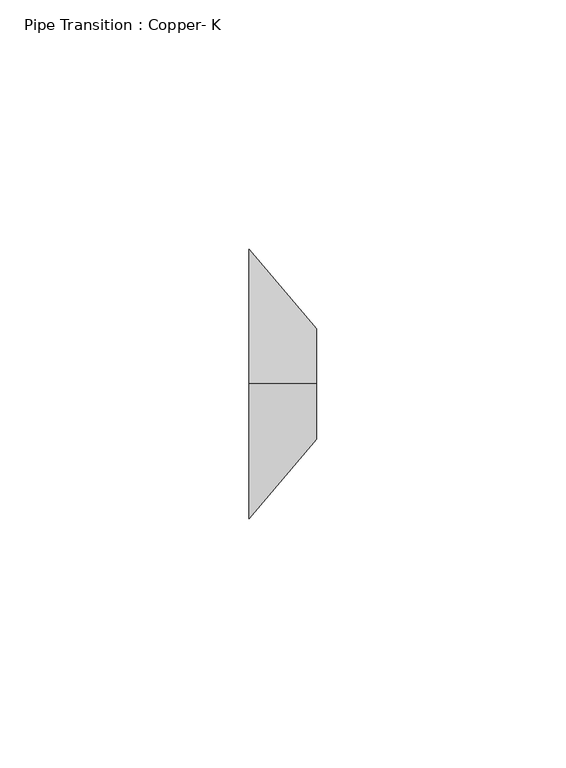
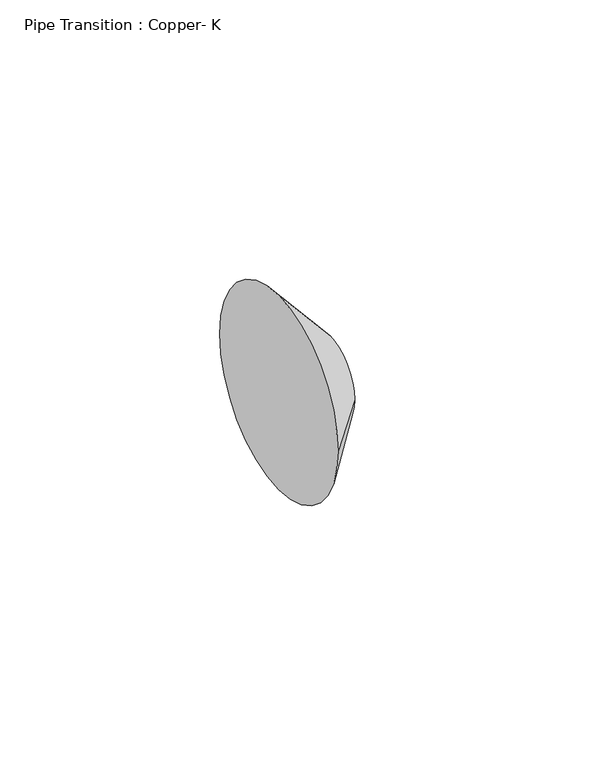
"""IFC4 building model written with IfcOpenShell, lengths in millimetres: pipe fitting geometry, Pipe Transition : Copper- K."""

from ifc_helpers import new_model, si_unit, frame, origin, place, context, project, spatial, circle_curve, source, transform, mapped, element, save
from ifc_brep_helpers import plane_surface, spline_surface, advanced_brep


def pipe_transition_copper_k_5cb68fef(model_context):
    return source(origin(), model_context, "Body", "AdvancedBrep", [
        advanced_brep(
        [(13.49375, 0.0, 11.1184158), (13.49375, -11.1125, 0.0059158), (13.49375, 0.0, -11.1065842), (13.49375, 11.1125, 0.0059158), (0.0, 0.0, 26.9875), (0.0, 26.9875, 0.0), (0.0, 0.0, -26.9875), (0.0, -26.9875, 0.0)],
        [
            (0, 1, circle_curve(frame((13.49375, 0.0, 0.0059158), z_axis=(1.0, 0.0, 0.0), x_axis=(0.0, 1.0, 0.0)), 11.1125)),
            (1, 2, circle_curve(frame((13.49375, 0.0, 0.0059158), z_axis=(1.0, 0.0, 0.0), x_axis=(0.0, 1.0, 0.0)), 11.1125)),
            (2, 3, circle_curve(frame((13.49375, 0.0, 0.0059158), z_axis=(1.0, 0.0, 0.0), x_axis=(0.0, 1.0, 0.0)), 11.1125)),
            (3, 0, circle_curve(frame((13.49375, 0.0, 0.0059158), z_axis=(1.0, 0.0, 0.0), x_axis=(0.0, 1.0, 0.0)), 11.1125)),
            (4, 5, circle_curve(frame((0.0, 0.0, 0.0), z_axis=(-1.0, 0.0, 0.0), x_axis=(0.0, 1.0, 0.0)), 26.9875)),
            (5, 6, circle_curve(frame((0.0, 0.0, 0.0), z_axis=(-1.0, 0.0, 0.0), x_axis=(0.0, 1.0, 0.0)), 26.9875)),
            (6, 7, circle_curve(frame((0.0, 0.0, 0.0), z_axis=(-1.0, 0.0, 0.0), x_axis=(0.0, 1.0, 0.0)), 26.9875)),
            (7, 4, circle_curve(frame((0.0, 0.0, 0.0), z_axis=(-1.0, 0.0, 0.0), x_axis=(0.0, 1.0, 0.0)), 26.9875)),
            (7, 1),
            (0, 4),
            (6, 2),
            (5, 3),
        ],
        [
            plane_surface(frame((13.49375, 0.0, 0.0059158), z_axis=(1.0, 0.0, 0.0), x_axis=(0.0, -1.0, 0.0))),
            plane_surface(frame((0.0, 0.0, 0.0), z_axis=(-1.0, 0.0, 0.0), x_axis=(0.0, -1.0, 0.0))),
            spline_surface(2, 1, [[(0.0, 0.0, 26.9875), (13.49375, 0.0, 11.1184158)], [(0.0, -26.9875, 26.9875), (13.49375, -11.112499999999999, 11.1184158)], [(0.0, -26.9875, 0.0), (13.49375, -11.1125, 0.0059158)]], [3, 3], [2, 2], [0.0, 1.0], [0.0, 1.0], weights=[[1.0, 1.0], [0.7071067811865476, 0.7071067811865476], [1.0, 1.0]]),
            spline_surface(2, 1, [[(0.0, -26.9875, 0.0), (13.49375, -11.1125, 0.0059158)], [(0.0, -26.9875, -26.9875), (13.49375, -11.1125, -11.1065842)], [(0.0, 0.0, -26.9875), (13.49375, 0.0, -11.1065842)]], [3, 3], [2, 2], [0.0, 1.0], [0.0, 1.0], weights=[[1.0, 1.0], [0.7071067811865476, 0.7071067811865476], [1.0, 1.0]]),
            spline_surface(2, 1, [[(0.0, 0.0, -26.9875), (13.49375, 0.0, -11.1065842)], [(0.0, 26.9875, -26.9875), (13.49375, 11.1125, -11.1065842)], [(0.0, 26.9875, 0.0), (13.49375, 11.1125, 0.0059158)]], [3, 3], [2, 2], [0.0, 1.0], [0.0, 1.0], weights=[[1.0, 1.0], [0.7071067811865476, 0.7071067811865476], [1.0, 1.0]]),
            spline_surface(2, 1, [[(0.0, 26.9875, 0.0), (13.49375, 11.1125, 0.0059158)], [(0.0, 26.9875, 26.9875), (13.49375, 11.1125, 11.118415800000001)], [(0.0, 0.0, 26.9875), (13.49375, 0.0, 11.1184158)]], [3, 3], [2, 2], [0.0, 1.0], [0.0, 1.0], weights=[[1.0, 1.0], [0.7071067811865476, 0.7071067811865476], [1.0, 1.0]]),
        ],
        [
            (0, [[1, 2, 3, 4]]),
            (1, [[5, 6, 7, 8]]),
            (2, [[-8, 9, -1, 10]]),
            (3, [[-7, 11, -2, -9]]),
            (4, [[-6, 12, -3, -11]]),
            (5, [[-5, -10, -4, -12]]),
        ],
    ),
        advanced_brep(
        [(13.49375, 0.0, 11.1184158), (13.49375, -11.1125, 0.0059158), (13.49375, 0.0, -11.1065842), (13.49375, 11.1125, 0.0059158), (0.0, 0.0, 26.9875), (0.0, 26.9875, 0.0), (0.0, 0.0, -26.9875), (0.0, -26.9875, 0.0)],
        [
            (0, 1, circle_curve(frame((13.49375, 0.0, 0.0059158), z_axis=(1.0, 0.0, 0.0), x_axis=(0.0, 1.0, 0.0)), 11.1125)),
            (1, 2, circle_curve(frame((13.49375, 0.0, 0.0059158), z_axis=(1.0, 0.0, 0.0), x_axis=(0.0, 1.0, 0.0)), 11.1125)),
            (2, 3, circle_curve(frame((13.49375, 0.0, 0.0059158), z_axis=(1.0, 0.0, 0.0), x_axis=(0.0, 1.0, 0.0)), 11.1125)),
            (3, 0, circle_curve(frame((13.49375, 0.0, 0.0059158), z_axis=(1.0, 0.0, 0.0), x_axis=(0.0, 1.0, 0.0)), 11.1125)),
            (4, 5, circle_curve(frame((0.0, 0.0, 0.0), z_axis=(-1.0, 0.0, 0.0), x_axis=(0.0, 1.0, 0.0)), 26.9875)),
            (5, 6, circle_curve(frame((0.0, 0.0, 0.0), z_axis=(-1.0, 0.0, 0.0), x_axis=(0.0, 1.0, 0.0)), 26.9875)),
            (6, 7, circle_curve(frame((0.0, 0.0, 0.0), z_axis=(-1.0, 0.0, 0.0), x_axis=(0.0, 1.0, 0.0)), 26.9875)),
            (7, 4, circle_curve(frame((0.0, 0.0, 0.0), z_axis=(-1.0, 0.0, 0.0), x_axis=(0.0, 1.0, 0.0)), 26.9875)),
            (7, 1),
            (0, 4),
            (6, 2),
            (5, 3),
        ],
        [
            plane_surface(frame((13.49375, 0.0, 0.0059158), z_axis=(1.0, 0.0, 0.0), x_axis=(0.0, -1.0, 0.0))),
            plane_surface(frame((0.0, 0.0, 0.0), z_axis=(-1.0, 0.0, 0.0), x_axis=(0.0, -1.0, 0.0))),
            spline_surface(2, 1, [[(0.0, 0.0, 26.9875), (13.49375, 0.0, 11.1184158)], [(0.0, -26.9875, 26.9875), (13.49375, -11.112499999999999, 11.1184158)], [(0.0, -26.9875, 0.0), (13.49375, -11.1125, 0.0059158)]], [3, 3], [2, 2], [0.0, 1.0], [0.0, 1.0], weights=[[1.0, 1.0], [0.7071067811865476, 0.7071067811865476], [1.0, 1.0]]),
            spline_surface(2, 1, [[(0.0, -26.9875, 0.0), (13.49375, -11.1125, 0.0059158)], [(0.0, -26.9875, -26.9875), (13.49375, -11.1125, -11.1065842)], [(0.0, 0.0, -26.9875), (13.49375, 0.0, -11.1065842)]], [3, 3], [2, 2], [0.0, 1.0], [0.0, 1.0], weights=[[1.0, 1.0], [0.7071067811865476, 0.7071067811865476], [1.0, 1.0]]),
            spline_surface(2, 1, [[(0.0, 0.0, -26.9875), (13.49375, 0.0, -11.1065842)], [(0.0, 26.9875, -26.9875), (13.49375, 11.1125, -11.1065842)], [(0.0, 26.9875, 0.0), (13.49375, 11.1125, 0.0059158)]], [3, 3], [2, 2], [0.0, 1.0], [0.0, 1.0], weights=[[1.0, 1.0], [0.7071067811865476, 0.7071067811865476], [1.0, 1.0]]),
            spline_surface(2, 1, [[(0.0, 26.9875, 0.0), (13.49375, 11.1125, 0.0059158)], [(0.0, 26.9875, 26.9875), (13.49375, 11.1125, 11.118415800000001)], [(0.0, 0.0, 26.9875), (13.49375, 0.0, 11.1184158)]], [3, 3], [2, 2], [0.0, 1.0], [0.0, 1.0], weights=[[1.0, 1.0], [0.7071067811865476, 0.7071067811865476], [1.0, 1.0]]),
        ],
        [
            (0, [[1, 2, 3, 4]]),
            (1, [[5, 6, 7, 8]]),
            (2, [[-8, 9, -1, 10]]),
            (3, [[-7, 11, -2, -9]]),
            (4, [[-6, 12, -3, -11]]),
            (5, [[-5, -10, -4, -12]]),
        ],
    ),
    ])


if __name__ == "__main__":
    model = new_model("IFC4")
    model_context = context("Model", 3, world=origin())
    ifc_project = project(units=[si_unit("LENGTHUNIT", "METRE", prefix="MILLI")], contexts=[model_context])
    site = spatial("IfcSite", under=ifc_project)
    building = spatial("IfcBuilding", under=site)
    placement = place(None, origin())
    pipe_transition_copper_k_shape = pipe_transition_copper_k_5cb68fef(model_context)
    element("IfcPipeFitting", 1, ObjectType="Pipe Transition : Copper- K", at=placement, inside=building, context=model_context, shape_type="MappedRepresentation", body=[
        mapped(pipe_transition_copper_k_shape, transform((0.0, 0.0, 0.0), x_axis=(1.0, 0.0, 0.0), y_axis=(0.0, 1.0, 0.0), z_axis=(0.0, 0.0, 1.0))),
    ])
    save(model, "model.ifc")
